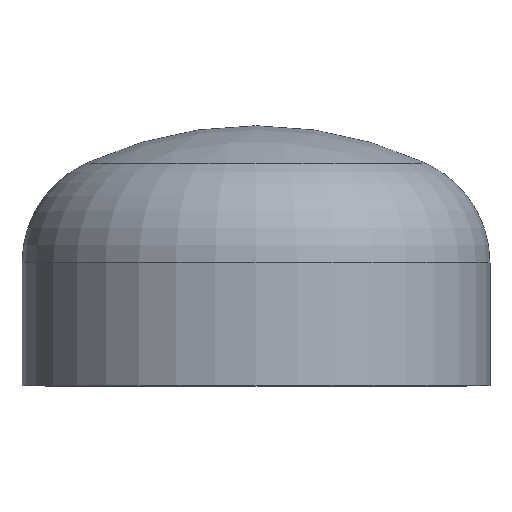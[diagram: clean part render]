
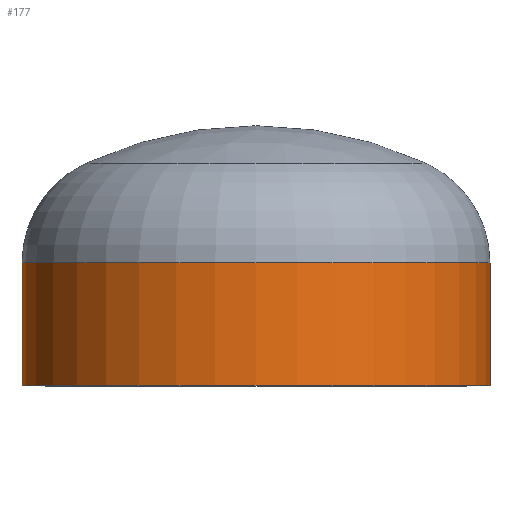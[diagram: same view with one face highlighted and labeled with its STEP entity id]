
A CAD part, top view. The second image highlights one B-rep face of the part: STEP entity #177.
In plain terms, the highlighted cylindrical face has radius 161.95 mm (diameter 323.9 mm), a partial arc.
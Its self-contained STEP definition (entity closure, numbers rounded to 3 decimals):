
#25 = AXIS2_PLACEMENT_3D ( 'NONE', #190, #372, #229 ) ;
#29 = VERTEX_POINT ( 'NONE', #253 ) ;
#42 = VERTEX_POINT ( 'NONE', #254 ) ;
#58 = AXIS2_PLACEMENT_3D ( 'NONE', #221, #209, #291 ) ;
#75 = AXIS2_PLACEMENT_3D ( 'NONE', #300, #228, #226 ) ;
#77 = ORIENTED_EDGE ( 'NONE', *, *, #121, .T. ) ;
#97 = ORIENTED_EDGE ( 'NONE', *, *, #109, .F. ) ;
#109 = EDGE_CURVE ( 'NONE', #157, #134, #369, .T. ) ;
#121 = EDGE_CURVE ( 'NONE', #42, #29, #167, .T. ) ;
#122 = ORIENTED_EDGE ( 'NONE', *, *, #357, .T. ) ;
#129 = EDGE_CURVE ( 'NONE', #134, #29, #363, .T. ) ;
#132 = ORIENTED_EDGE ( 'NONE', *, *, #129, .F. ) ;
#134 = VERTEX_POINT ( 'NONE', #301 ) ;
#147 = EDGE_LOOP ( 'NONE', ( #122, #77, #132, #97 ) ) ;
#151 = FACE_OUTER_BOUND ( 'NONE', #147, .T. ) ;
#157 = VERTEX_POINT ( 'NONE', #208 ) ;
#167 = LINE ( 'NONE', #202, #289 ) ;
#177 = ADVANCED_FACE ( 'NONE', ( #151 ), #344, .T. ) ;
#190 = CARTESIAN_POINT ( 'NONE',  ( 0., 85., 0. ) ) ;
#202 = CARTESIAN_POINT ( 'NONE',  ( -161.95, 0., 0. ) ) ;
#208 = CARTESIAN_POINT ( 'NONE',  ( 161.95, 85., 0. ) ) ;
#209 = DIRECTION ( 'NONE',  ( 0., -1., 0. ) ) ;
#221 = CARTESIAN_POINT ( 'NONE',  ( 0., 0., 0. ) ) ;
#226 = DIRECTION ( 'NONE',  ( 1., 0., 0. ) ) ;
#228 = DIRECTION ( 'NONE',  ( 0., -1., 0. ) ) ;
#229 = DIRECTION ( 'NONE',  ( 1., 0., 0. ) ) ;
#243 = DIRECTION ( 'NONE',  ( 0., -1., 0. ) ) ;
#244 = DIRECTION ( 'NONE',  ( 0., -1., 0. ) ) ;
#252 = CARTESIAN_POINT ( 'NONE',  ( 161.95, 0., 0. ) ) ;
#253 = CARTESIAN_POINT ( 'NONE',  ( -161.95, 0., 0. ) ) ;
#254 = CARTESIAN_POINT ( 'NONE',  ( -161.95, 85., 0. ) ) ;
#289 = VECTOR ( 'NONE', #244, 1000. ) ;
#291 = DIRECTION ( 'NONE',  ( 1., 0., 0. ) ) ;
#298 = VECTOR ( 'NONE', #243, 1000. ) ;
#300 = CARTESIAN_POINT ( 'NONE',  ( 0., 0., 0. ) ) ;
#301 = CARTESIAN_POINT ( 'NONE',  ( 161.95, 0., 0. ) ) ;
#311 = CIRCLE ( 'NONE', #25, 161.95 ) ;
#344 = CYLINDRICAL_SURFACE ( 'NONE', #58, 161.95 ) ;
#357 = EDGE_CURVE ( 'NONE', #157, #42, #311, .T. ) ;
#363 = CIRCLE ( 'NONE', #75, 161.95 ) ;
#369 = LINE ( 'NONE', #252, #298 ) ;
#372 = DIRECTION ( 'NONE',  ( 0., -1., 0. ) ) ;
